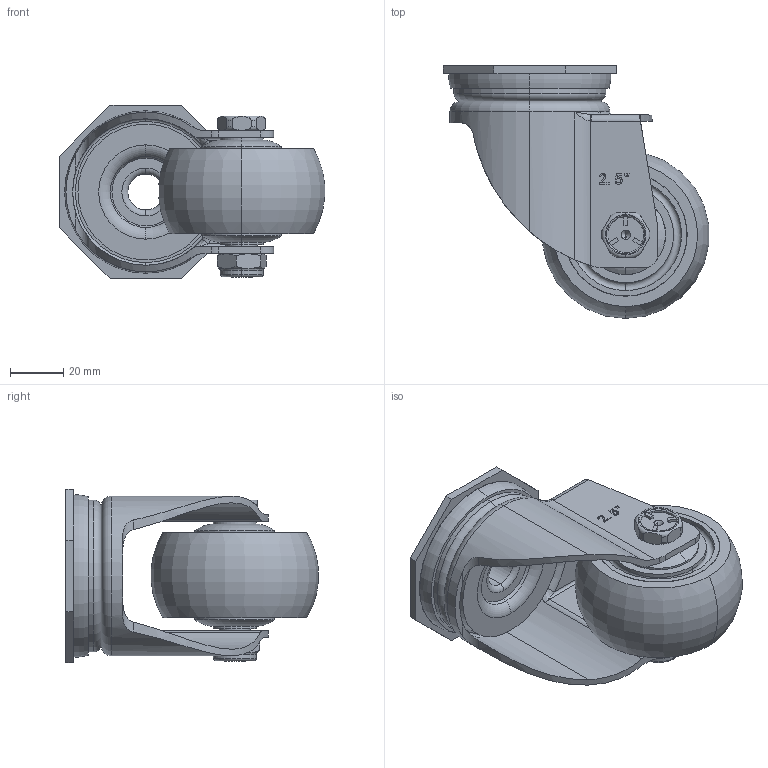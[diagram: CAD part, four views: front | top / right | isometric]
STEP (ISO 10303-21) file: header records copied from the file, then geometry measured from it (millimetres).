
FILE_DESCRIPTION (( 'STEP AP203' ), '1' );
FILE_NAME ('2.5寸孔顶万向.STEP', '2024-03-19T03:31:51', ( '微软用户' ), ( '微软中国' ), 'SwSTEP 2.0', 'SolidWorks 2008', '' );
FILE_SCHEMA (( 'CONFIG_CONTROL_DESIGN' ));
Length unit declared in the file: millimetre
Products named in the file (7): 2.5渡謂階勀砃; 40.2mm中型中管_默认; M10-55蹟裝; M10蹟譫; 中型2.5寸轮_默认; 2023-3-8  中型2.5寸万向支架_默认; 孔顶_默认
Assembly tree (6 placements, depth 2):
  2.5渡謂階勀砃
    40.2mm中型中管_默认
    2023-3-8  中型2.5寸万向支架_默认
    中型2.5寸轮_默认
    M10-55蹟裝
    M10蹟譫
    孔顶_默认
Bounding box: 99.68 x 94.92 x 65.01 mm (x, y, z)
Volume: 164820.9 mm3; surface area: 57205.1 mm2
Topology: 6 solids, 6 shells, 482 faces, 1226 edges, 795 vertices
Faces by surface type: plane 194, cylinder 125, bspline 99, torus 48, cone 16
Entity records: 21359 total; most frequent: CARTESIAN_POINT 9693, ORIENTED_EDGE 2444, DIRECTION 1986, EDGE_CURVE 1222, VERTEX_POINT 795, AXIS2_PLACEMENT_3D 693, LINE 600, VECTOR 600
